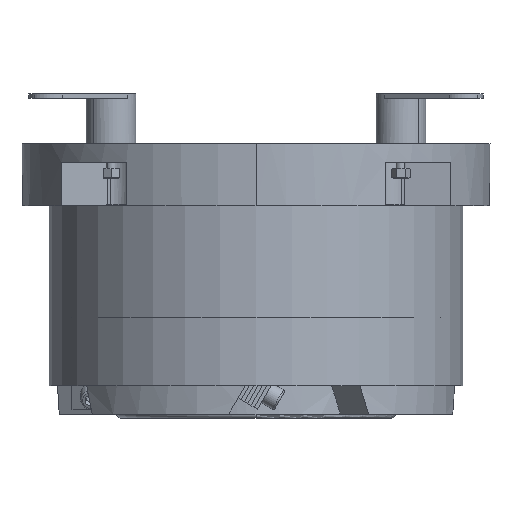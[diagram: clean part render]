
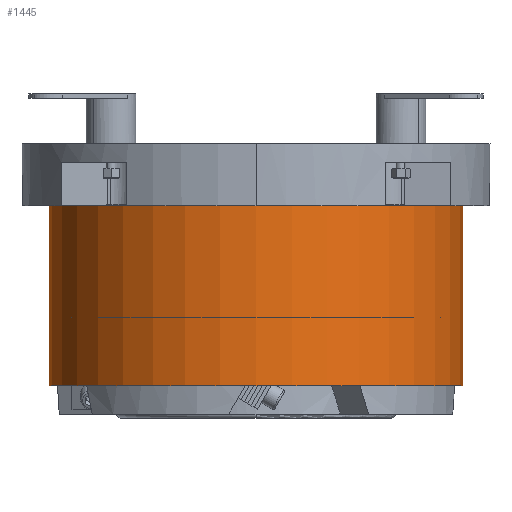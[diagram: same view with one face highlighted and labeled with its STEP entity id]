
A CAD part, front view. The second image highlights one B-rep face of the part: STEP entity #1445.
In plain terms, the highlighted cylindrical face has radius 166.5 mm (diameter 333 mm), a full revolution.
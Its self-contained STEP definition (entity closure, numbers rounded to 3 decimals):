
#1113=FACE_BOUND('',#2695,.T.);
#1114=FACE_BOUND('',#2696,.T.);
#1445=ADVANCED_FACE('',(#1113,#1114),#1900,.T.);
#1900=CYLINDRICAL_SURFACE('',#10193,166.5);
#2695=EDGE_LOOP('',(#5489));
#2696=EDGE_LOOP('',(#5490));
#5489=ORIENTED_EDGE('',*,*,#8520,.T.);
#5490=ORIENTED_EDGE('',*,*,#8521,.F.);
#7510=VERTEX_POINT('',#15855);
#7511=VERTEX_POINT('',#15857);
#8520=EDGE_CURVE('',#7510,#7510,#9545,.T.);
#8521=EDGE_CURVE('',#7511,#7511,#9546,.T.);
#9545=CIRCLE('',#10191,166.5);
#9546=CIRCLE('',#10192,166.5);
#10191=AXIS2_PLACEMENT_3D('',#15854,#11763,#11764);
#10192=AXIS2_PLACEMENT_3D('',#15856,#11765,#11766);
#10193=AXIS2_PLACEMENT_3D('',#15858,#11767,#11768);
#11763=DIRECTION('',(0.,0.,1.));
#11764=DIRECTION('',(0.,1.,0.));
#11765=DIRECTION('',(0.,0.,1.));
#11766=DIRECTION('',(0.,1.,0.));
#11767=DIRECTION('',(0.,0.,-1.));
#11768=DIRECTION('',(0.,-1.,0.));
#15854=CARTESIAN_POINT('',(0.,0.,-195.));
#15855=CARTESIAN_POINT('',(0.,166.5,-195.));
#15856=CARTESIAN_POINT('',(0.,0.,-50.));
#15857=CARTESIAN_POINT('',(0.,166.5,-50.));
#15858=CARTESIAN_POINT('',(0.,0.,-50.));
